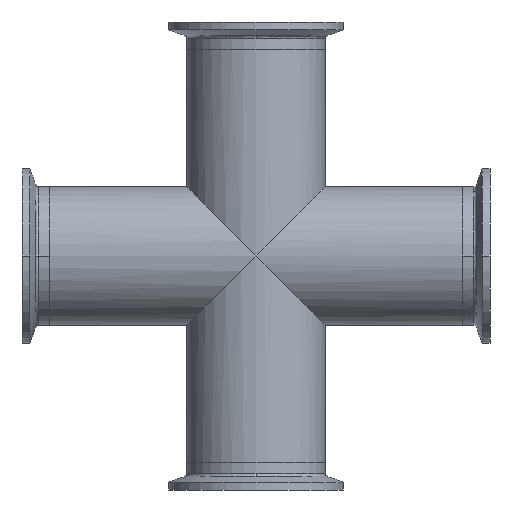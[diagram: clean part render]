
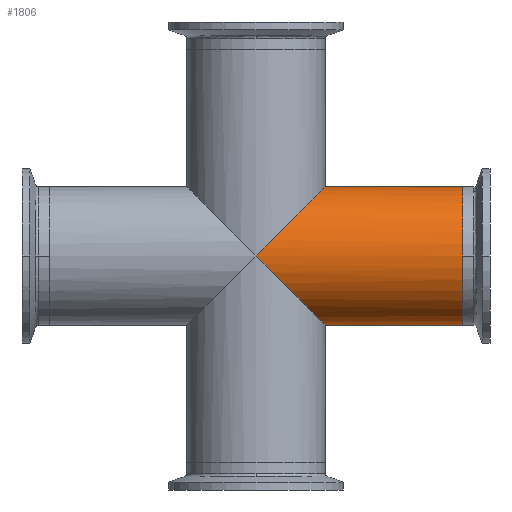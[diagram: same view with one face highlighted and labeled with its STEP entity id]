
A CAD part, front view. The second image highlights one B-rep face of the part: STEP entity #1806.
In plain terms, the highlighted cylindrical face has radius 25.4 mm (diameter 50.8 mm), a partial arc.
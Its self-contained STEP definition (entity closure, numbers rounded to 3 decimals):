
#8 = CARTESIAN_POINT ( 'NONE',  ( 14.879, -25.4, -14.879 ) ) ;
#120 = VERTEX_POINT ( 'NONE', #3664 ) ;
#185 = VECTOR ( 'NONE', #3748, 1000. ) ;
#197 = EDGE_LOOP ( 'NONE', ( #5921, #6228, #346, #1525, #3985 ) ) ;
#346 = ORIENTED_EDGE ( 'NONE', *, *, #2857, .F. ) ;
#420 = VERTEX_POINT ( 'NONE', #5566 ) ;
#456 = CARTESIAN_POINT ( 'NONE',  ( 75.725, 0., -25.4 ) ) ;
#556 = CYLINDRICAL_SURFACE ( 'NONE', #1471, 25.4 ) ;
#926 = DIRECTION ( 'NONE',  ( 1., 0., 0. ) ) ;
#1106 = LINE ( 'NONE', #1918, #3808 ) ;
#1265 = EDGE_CURVE ( 'NONE', #3641, #2820, #1106, .T. ) ;
#1471 = AXIS2_PLACEMENT_3D ( 'NONE', #4931, #2950, #3966 ) ;
#1525 = ORIENTED_EDGE ( 'NONE', *, *, #1265, .T. ) ;
#1568 = CARTESIAN_POINT ( 'NONE',  ( 75.725, 0., 0. ) ) ;
#1614 =( BOUNDED_CURVE ( )  B_SPLINE_CURVE ( 3, ( #3695, #4650, #4669, #1682 ),
 .UNSPECIFIED., .F., .F. ) 
 B_SPLINE_CURVE_WITH_KNOTS ( ( 4, 4 ),
 ( 0., 1.571 ),
 .UNSPECIFIED. ) 
 CURVE ( )  GEOMETRIC_REPRESENTATION_ITEM ( )  RATIONAL_B_SPLINE_CURVE ( ( 1., 0.805, 0.805, 1. ) ) 
 REPRESENTATION_ITEM ( '' )  );
#1682 = CARTESIAN_POINT ( 'NONE',  ( 0., -25.4, 0. ) ) ;
#1806 = ADVANCED_FACE ( 'NONE', ( #5890 ), #556, .T. ) ;
#1918 = CARTESIAN_POINT ( 'NONE',  ( -75.725, 0., -25.4 ) ) ;
#2086 = DIRECTION ( 'NONE',  ( 0., 0., -1. ) ) ;
#2165 = VERTEX_POINT ( 'NONE', #5095 ) ;
#2544 = CARTESIAN_POINT ( 'NONE',  ( 25.4, 0., -25.4 ) ) ;
#2820 = VERTEX_POINT ( 'NONE', #456 ) ;
#2857 = EDGE_CURVE ( 'NONE', #3641, #420, #4227, .T. ) ;
#2950 = DIRECTION ( 'NONE',  ( 1., 0., 0. ) ) ;
#3168 = EDGE_CURVE ( 'NONE', #2165, #420, #1614, .T. ) ;
#3561 = CARTESIAN_POINT ( 'NONE',  ( 0., -25.4, 0. ) ) ;
#3641 = VERTEX_POINT ( 'NONE', #4120 ) ;
#3664 = CARTESIAN_POINT ( 'NONE',  ( 75.725, 0., 25.4 ) ) ;
#3695 = CARTESIAN_POINT ( 'NONE',  ( 25.4, 0., 25.4 ) ) ;
#3748 = DIRECTION ( 'NONE',  ( 1., 0., 0. ) ) ;
#3808 = VECTOR ( 'NONE', #926, 1000. ) ;
#3966 = DIRECTION ( 'NONE',  ( 0., 0., -1. ) ) ;
#3985 = ORIENTED_EDGE ( 'NONE', *, *, #4531, .T. ) ;
#3993 = CARTESIAN_POINT ( 'NONE',  ( 25.4, -14.879, -25.4 ) ) ;
#4120 = CARTESIAN_POINT ( 'NONE',  ( 25.4, 0., -25.4 ) ) ;
#4227 =( BOUNDED_CURVE ( )  B_SPLINE_CURVE ( 3, ( #2544, #3993, #8, #3561 ),
 .UNSPECIFIED., .F., .T. ) 
 B_SPLINE_CURVE_WITH_KNOTS ( ( 4, 4 ),
 ( 0., 1.571 ),
 .UNSPECIFIED. ) 
 CURVE ( )  GEOMETRIC_REPRESENTATION_ITEM ( )  RATIONAL_B_SPLINE_CURVE ( ( 1., 0.805, 0.805, 1. ) ) 
 REPRESENTATION_ITEM ( '' )  );
#4296 = EDGE_CURVE ( 'NONE', #2165, #120, #4535, .T. ) ;
#4531 = EDGE_CURVE ( 'NONE', #2820, #120, #4915, .T. ) ;
#4535 = LINE ( 'NONE', #6212, #185 ) ;
#4650 = CARTESIAN_POINT ( 'NONE',  ( 25.4, -14.879, 25.4 ) ) ;
#4669 = CARTESIAN_POINT ( 'NONE',  ( 14.879, -25.4, 14.879 ) ) ;
#4915 = CIRCLE ( 'NONE', #6375, 25.4 ) ;
#4931 = CARTESIAN_POINT ( 'NONE',  ( -75.725, 0., 0. ) ) ;
#5061 = DIRECTION ( 'NONE',  ( -1., 0., 0. ) ) ;
#5095 = CARTESIAN_POINT ( 'NONE',  ( 25.4, 0., 25.4 ) ) ;
#5566 = CARTESIAN_POINT ( 'NONE',  ( 0., -25.4, 0. ) ) ;
#5890 = FACE_OUTER_BOUND ( 'NONE', #197, .T. ) ;
#5921 = ORIENTED_EDGE ( 'NONE', *, *, #4296, .F. ) ;
#6212 = CARTESIAN_POINT ( 'NONE',  ( -75.725, 0., 25.4 ) ) ;
#6228 = ORIENTED_EDGE ( 'NONE', *, *, #3168, .T. ) ;
#6375 = AXIS2_PLACEMENT_3D ( 'NONE', #1568, #5061, #2086 ) ;
